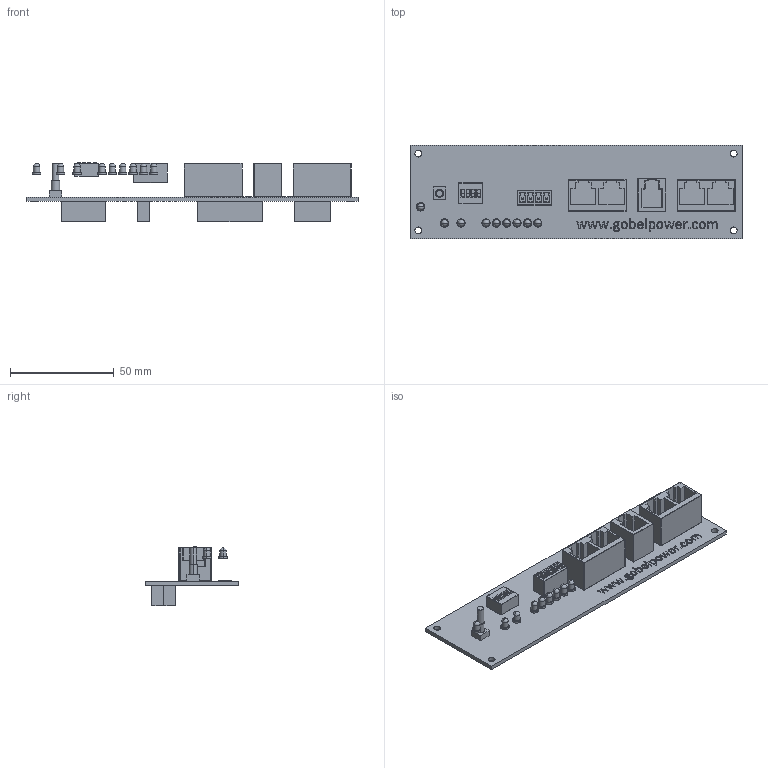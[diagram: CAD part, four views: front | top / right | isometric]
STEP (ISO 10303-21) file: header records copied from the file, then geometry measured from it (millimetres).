
FILE_DESCRIPTION (( 'STEP AP214' ), '1' );
FILE_NAME ('JK-PB2A16S15P-JK-PB2A16S20P-Ports-Board-3D.STEP', '2024-03-08T04:25:33', ( '' ), ( '' ), 'SwSTEP 2.0', 'SolidWorks 2022', '' );
FILE_SCHEMA (( 'AUTOMOTIVE_DESIGN' ));
Length unit declared in the file: millimetre
Products named in the file (9): RJ45-Female; RJ11-Female; KF2EDG3.81-4P-Male; DIP-4P; JK-PB2A16S15P-JK-PB2A16S20P-Ports-Board-3D; JK-BMS-Ports-Plate; LED-6-GRE; LED-6-RED; Reset-round
Assembly tree (16 placements, depth 2):
  JK-PB2A16S15P-JK-PB2A16S20P-Ports-Board-3D
    JK-BMS-Ports-Plate
    RJ45-Female  x2
    RJ11-Female
    KF2EDG3.81-4P-Male
    DIP-4P
    Reset-round
    LED-6-GRE  x8
    LED-6-RED
Bounding box: 160 x 45 x 28.9 mm (x, y, z)
Volume: 32120.3 mm3; surface area: 29933.6 mm2
Topology: 65 solids, 65 shells, 1019 faces, 2407 edges, 1471 vertices
Faces by surface type: plane 490, cylinder 252, bspline 193, sphere 70, torus 14
Entity records: 36456 total; most frequent: CARTESIAN_POINT 11952, ORIENTED_EDGE 4030, DIRECTION 3187, EDGE_CURVE 2015, VECTOR 1305, LINE 1305, VERTEX_POINT 1262, AXIS2_PLACEMENT_3D 941
